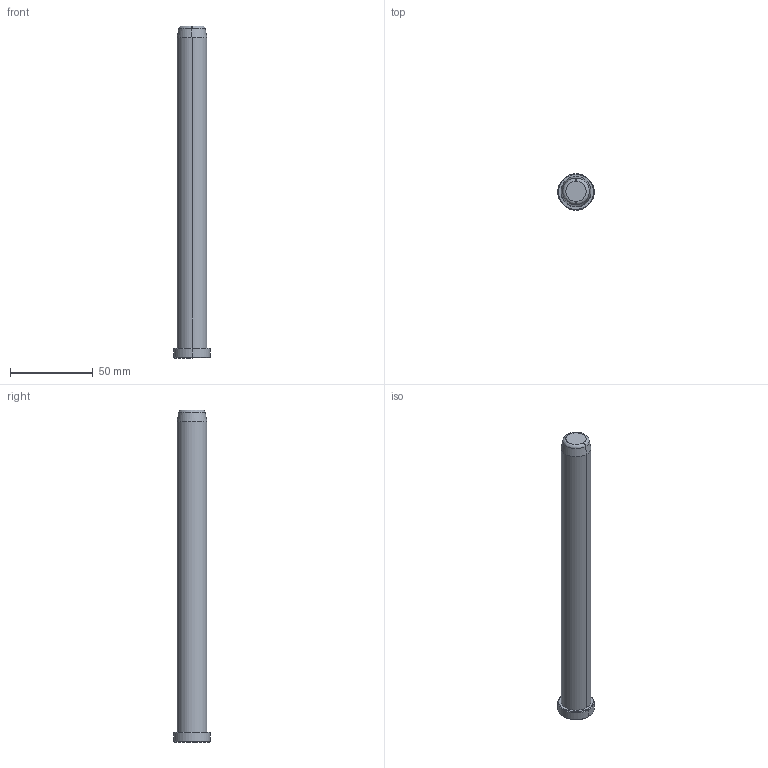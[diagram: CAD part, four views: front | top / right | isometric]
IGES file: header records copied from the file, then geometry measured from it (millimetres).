
Start section: START RECORD GO HERE.
Global section: file name: B81818200.igs; native system: DASSAULT SYSTEMES CATIA V5 R20 - www.3ds.com; preprocessor: CATIA Version 5 Release 20 ; author: Utente; organization: NB04-ASUS; date: 20200419.172235; units: millimetre
Bounding box: 22 x 22 x 200 mm (x, y, z)
Surface area: 11988.9 mm2 (no closed solid volume)
Topology: 0 solids, 0 shells, 17 faces, 68 edges, 68 vertices
Faces by surface type: revolution 14, plane 3
